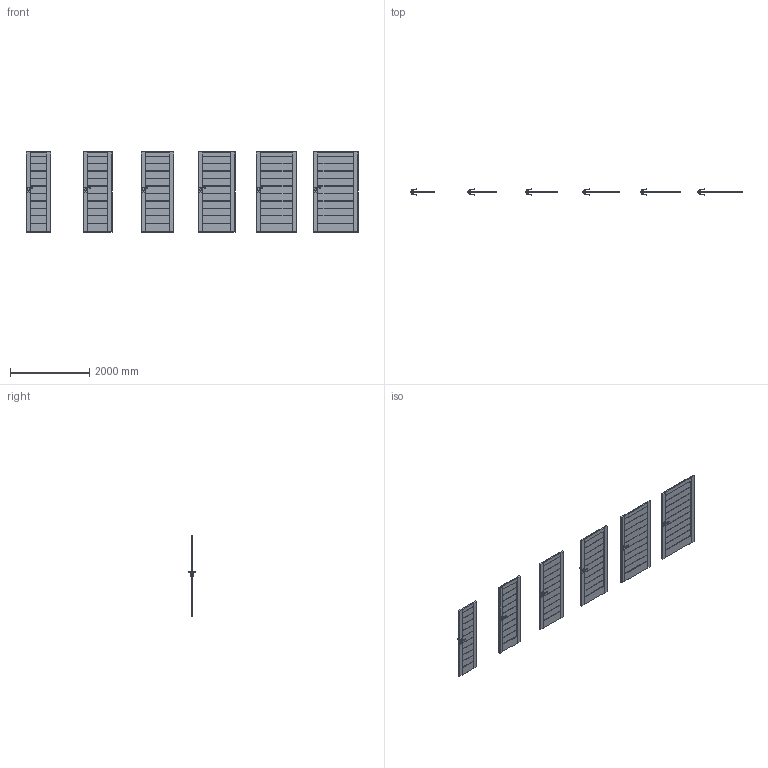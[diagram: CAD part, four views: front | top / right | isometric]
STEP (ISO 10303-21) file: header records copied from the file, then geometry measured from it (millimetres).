
FILE_DESCRIPTION(/* description */ (''),/* implementation_level */ '2;1');
FILE_NAME(/* name */ '049759_A_2-Skrzydło Verte Home model C_ polska norma _PN__ bezprzylgowe..stp',/* time_stamp */ '2024-03-08T08:40:58+01:00',/* author */ (''),/* organization */ (''),/* preprocessor_version */ 'ST-DEVELOPER v16',/* originating_system */ 'SIEMENS PLM Software NX 11.0',/* authorisation */ '');
FILE_SCHEMA (('AUTOMOTIVE_DESIGN { 1 0 10303 214 3 1 1 1 }'));
Products named in the file (1): bkni3A28ABC00orl
Bounding box: 8368 x 153.27 x 2017.01 mm (x, y, z)
Volume: 229013005.1 mm3; surface area: 23613831.1 mm2
Topology: 30 solids, 30 shells, 1764 faces, 4584 edges, 2760 vertices
Faces by surface type: plane 840, cylinder 564, bspline 192, sphere 168
Entity records: 59447 total; most frequent: CARTESIAN_POINT 17365, ORIENTED_EDGE 8832, DIRECTION 8570, EDGE_CURVE 4416, AXIS2_PLACEMENT_3D 2941, VERTEX_POINT 2760, LINE 2688, VECTOR 2688
